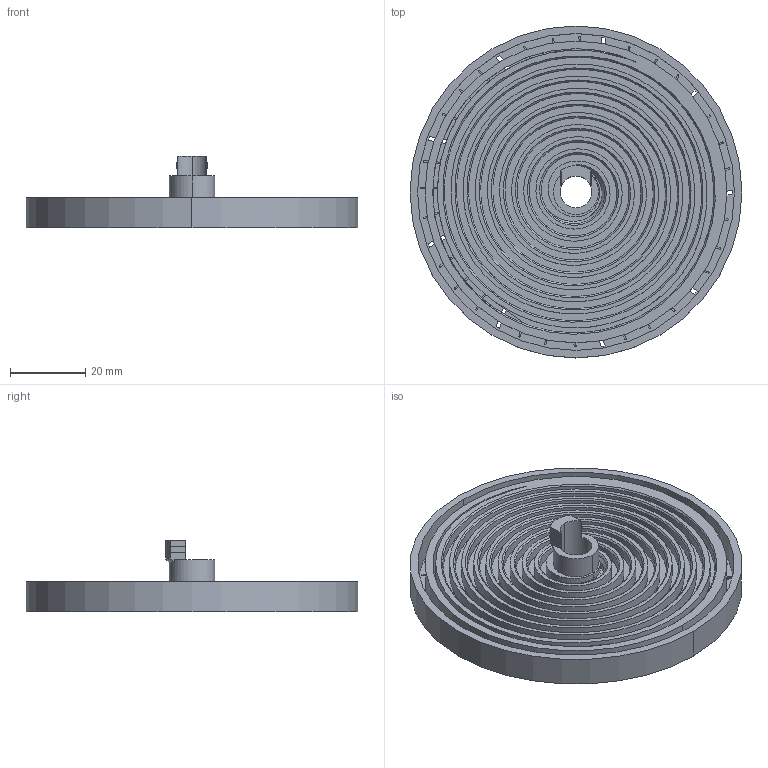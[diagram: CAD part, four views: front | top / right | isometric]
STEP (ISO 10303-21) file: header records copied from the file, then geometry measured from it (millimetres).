
FILE_DESCRIPTION (( 'STEP AP214' ), '1' );
FILE_NAME ('SpringRound_Stiff_v3.2.1.STEP', '2019-04-24T21:21:19', ( '' ), ( '' ), 'SwSTEP 2.0', 'SolidWorks 2018', '' );
FILE_SCHEMA (( 'AUTOMOTIVE_DESIGN' ));
Length unit declared in the file: millimetre
Products named in the file (1): SpringRound_Stiff_v3.2.1
Bounding box: 88 x 88 x 19 mm (x, y, z)
Volume: 26872.4 mm3; surface area: 45274.1 mm2
Topology: 1 solids, 1 shells, 284 faces, 756 edges, 502 vertices
Faces by surface type: cylinder 97, bspline 94, plane 83, cone 10
Entity records: 40348 total; most frequent: CARTESIAN_POINT 33726, ORIENTED_EDGE 1512, DIRECTION 1109, EDGE_CURVE 756, VERTEX_POINT 502, AXIS2_PLACEMENT_3D 411, EDGE_LOOP 336, VECTOR 287
